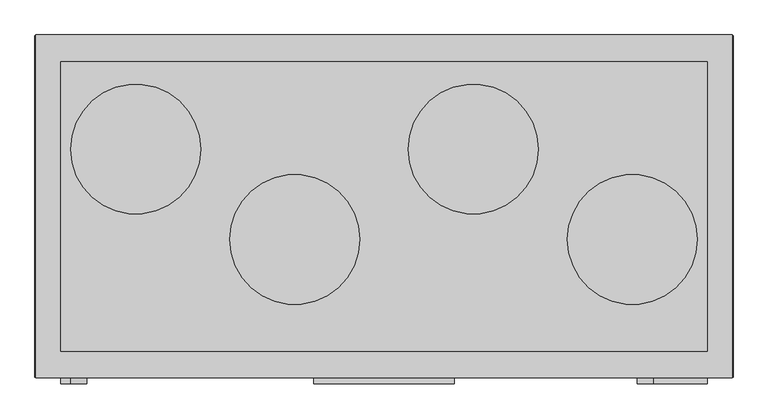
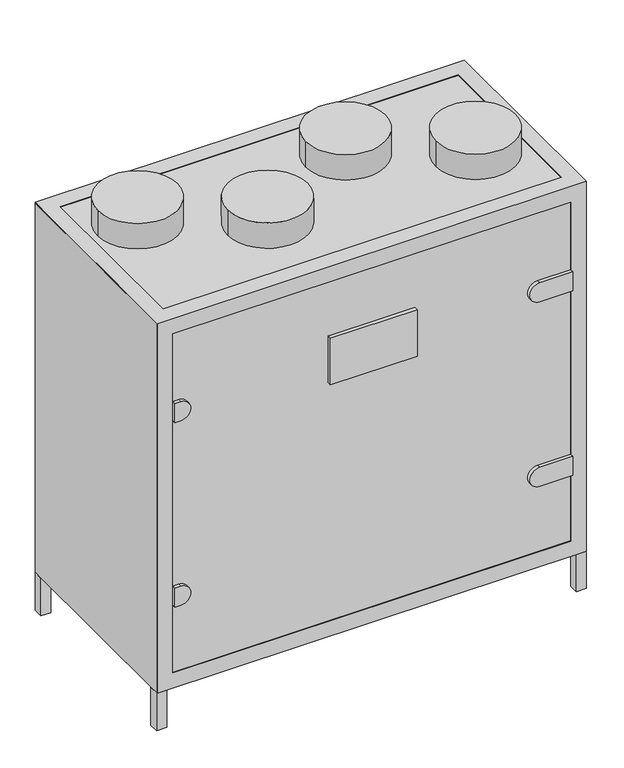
"""IFC4 building model written with IfcOpenShell, lengths in millimetres: proxy geometry, AVS 400...1600-V-RC(RG) : AVS 400-V-RG."""

from ifc_helpers import new_model, si_unit, point, frame, frame_2d, origin, origin_with_axes, place, context, project, spatial, polyline, circle_curve, trimmed, segment, composite_curve, outline, extrude, faceted_brep, source, transform, mapped, element, save


def mechanical_equipment_587655b3(model_context):
    return source(origin(), model_context, "Body", "SolidModel", [
        extrude(outline(polyline([(512.5, 263.0), (537.5, 263.0), (537.5, 238.0), (512.5, 238.0), (512.5, 263.0)])), origin_with_axes(), (0.0, 0.0, 1.0), 100.0),
        extrude(outline(polyline([(512.5, -263.0), (512.5, -238.0), (537.5, -238.0), (537.5, -263.0), (512.5, -263.0)])), origin_with_axes(), (0.0, 0.0, 1.0), 100.0),
        extrude(outline(polyline([(-537.5, 238.0), (-537.5, 263.0), (-512.5, 263.0), (-512.5, 238.0), (-537.5, 238.0)])), origin_with_axes(), (0.0, 0.0, 1.0), 100.0),
        extrude(outline(polyline([(-537.5, -238.0), (-512.5, -238.0), (-512.5, -263.0), (-537.5, -263.0), (-537.5, -238.0)])), origin_with_axes(), (0.0, 0.0, 1.0), 100.0),
        faceted_brep([(536.5, 264.0, 1077.0), (-536.5, 264.0, 1077.0), (-536.5, -264.0, 1077.0), (536.5, -264.0, 1077.0), (-497.5, 223.0, 1077.0), (20.0, 223.0, 1077.0), (497.5, 223.0, 1077.0), (497.5, -223.0, 1077.0), (20.0, -223.0, 1077.0), (-497.5, -223.0, 1077.0), (536.5, 264.0, 99.0), (536.5, -264.0, 99.0), (-536.5, -264.0, 99.0), (-536.5, 264.0, 99.0), (20.0, 223.0, 99.0), (-497.5, 223.0, 99.0), (-497.5, -223.0, 99.0), (20.0, -223.0, 99.0), (497.5, -223.0, 99.0), (497.5, 223.0, 99.0), (-497.5, 264.0, 1036.0), (-497.5, 264.0, 140.0), (497.5, 264.0, 140.0), (497.5, 264.0, 1036.0), (-536.5, -223.0, 1036.0), (-536.5, -223.0, 140.0), (-536.5, 223.0, 140.0), (-536.5, 223.0, 1036.0), (-497.5, -264.0, 140.0), (-497.5, -264.0, 1036.0), (497.5, -264.0, 1036.0), (497.5, -264.0, 140.0), (536.5, -223.0, 140.0), (536.5, -223.0, 1036.0), (536.5, 223.0, 1036.0), (536.5, 223.0, 140.0), (-497.5, 223.0, 1036.0), (20.0, 223.0, 1036.0), (20.0, 223.0, 140.0), (-497.5, 223.0, 140.0), (20.0, -223.0, 1036.0), (-497.5, -223.0, 1036.0), (-497.5, -223.0, 140.0), (20.0, -223.0, 140.0), (497.5, 223.0, 1036.0), (497.5, -223.0, 1036.0), (497.5, -223.0, 140.0), (497.5, 223.0, 140.0)], [[[0, 1, 2, 3], [4, 5, 6, 7, 8, 9]], [[10, 11, 12, 13], [14, 15, 16, 17, 18, 19]], [[1, 0, 10, 13], [20, 21, 22, 23]], [[2, 1, 13, 12], [24, 25, 26, 27]], [[3, 2, 12, 11], [28, 29, 30, 31]], [[0, 3, 11, 10], [32, 33, 34, 35]], [[5, 4, 36, 37]], [[15, 14, 38, 39]], [[9, 8, 40, 41]], [[17, 16, 42, 43]], [[7, 6, 44, 45]], [[19, 18, 46, 47]], [[31, 30, 45, 46]], [[44, 23, 22, 47]], [[41, 40, 45, 30, 29]], [[36, 20, 23, 44, 37]], [[43, 42, 28, 31, 46]], [[21, 39, 38, 47, 22]], [[24, 41, 42, 25]], [[45, 33, 32, 46]], [[46, 32, 35, 47]], [[39, 26, 25, 42]], [[47, 35, 34, 44]], [[36, 27, 26, 39]], [[33, 45, 44, 34]], [[27, 36, 41, 24]], [[4, 9, 41, 36]], [[16, 15, 39, 42]], [[29, 28, 42, 41]], [[20, 36, 39, 21]], [[6, 5, 37, 44]], [[14, 19, 47, 38]], [[8, 7, 45, 40]], [[18, 17, 43, 46]]]),
        extrude(outline(polyline([(-537.5, 263.0), (537.5, 263.0), (537.5, -263.0), (-537.5, -263.0), (-537.5, 263.0)])), frame((0.0, 0.0, 100.0), z_axis=(0.0, 0.0, 1.0), x_axis=(1.0, 0.0, 0.0)), (0.0, 0.0, 1.0), 976.0),
        extrude(outline(composite_curve([segment(trimmed(circle_curve(frame_2d((-382.5, 88.0)), 100.0), [point((-282.5, 88.0))], [point((-482.5, 88.0))], False, "CARTESIAN"), True, "CONTINUOUS"), segment(trimmed(circle_curve(frame_2d((-382.5, 88.0)), 100.0), [point((-482.5, 88.0))], [point((-282.5, 88.0))], False, "CARTESIAN"), True, "CONTINUOUS")], self_intersect=False)), frame((0.0, 0.0, 1077.0), z_axis=(0.0, 0.0, 1.0), x_axis=(1.0, 0.0, 0.0)), (0.0, 0.0, 1.0), 67.0),
        extrude(outline(composite_curve([segment(trimmed(circle_curve(frame_2d((-137.5, -51.0)), 100.0), [point((-37.5, -51.0))], [point((-237.5, -51.0))], False, "CARTESIAN"), True, "CONTINUOUS"), segment(trimmed(circle_curve(frame_2d((-137.5, -51.0)), 100.0), [point((-237.5, -51.0))], [point((-37.5, -51.0))], False, "CARTESIAN"), True, "CONTINUOUS")], self_intersect=False)), frame((0.0, 0.0, 1077.0), z_axis=(0.0, 0.0, 1.0), x_axis=(1.0, 0.0, 0.0)), (0.0, 0.0, 1.0), 67.0),
        extrude(outline(composite_curve([segment(trimmed(circle_curve(frame_2d((137.5, 88.0)), 100.0), [point((237.5, 88.0))], [point((37.5, 88.0))], False, "CARTESIAN"), True, "CONTINUOUS"), segment(trimmed(circle_curve(frame_2d((137.5, 88.0)), 100.0), [point((37.5, 88.0))], [point((237.5, 88.0))], False, "CARTESIAN"), True, "CONTINUOUS")], self_intersect=False)), frame((0.0, 0.0, 1077.0), z_axis=(0.0, 0.0, 1.0), x_axis=(1.0, 0.0, 0.0)), (0.0, 0.0, 1.0), 67.0),
        extrude(outline(composite_curve([segment(trimmed(circle_curve(frame_2d((382.5, -51.0)), 100.0), [point((482.5, -51.0))], [point((282.5, -51.0))], False, "CARTESIAN"), True, "CONTINUOUS"), segment(trimmed(circle_curve(frame_2d((382.5, -51.0)), 100.0), [point((282.5, -51.0))], [point((482.5, -51.0))], False, "CARTESIAN"), True, "CONTINUOUS")], self_intersect=False)), frame((0.0, 0.0, 1077.0), z_axis=(0.0, 0.0, 1.0), x_axis=(1.0, 0.0, 0.0)), (0.0, 0.0, 1.0), 67.0),
        extrude(outline(composite_curve([segment(polyline([(857.0, -482.7895396), (857.0, -497.5), (807.0, -497.5), (807.0, -482.7895396)]), True, "CONTINUOUS"), segment(trimmed(circle_curve(frame_2d((832.0, -482.7895396)), 25.0), [point((807.0, -482.7895396))], [point((857.0, -482.7895396))], False, "CARTESIAN"), True, "CONTINUOUS")], self_intersect=False)), frame((0.0, -273.0, 0.0), z_axis=(0.0, 1.0, 0.0), x_axis=(0.0, 0.0, 1.0)), (0.0, 0.0, 1.0), 10.0),
        extrude(outline(composite_curve([segment(polyline([(369.0, -482.7895396), (369.0, -497.5), (319.0, -497.5), (319.0, -482.7895396)]), True, "CONTINUOUS"), segment(trimmed(circle_curve(frame_2d((344.0, -482.7895396)), 25.0), [point((319.0, -482.7895396))], [point((369.0, -482.7895396))], False, "CARTESIAN"), True, "CONTINUOUS")], self_intersect=False)), frame((0.0, -273.0, 0.0), z_axis=(0.0, 1.0, 0.0), x_axis=(0.0, 0.0, 1.0)), (0.0, 0.0, 1.0), 10.0),
        extrude(outline(polyline([(108.5, -273.0), (-108.5, -273.0), (-108.5, -263.0), (108.5, -263.0), (108.5, -273.0)])), frame((0.0, 0.0, 770.25), z_axis=(0.0, 0.0, 1.0), x_axis=(1.0, 0.0, 0.0)), (0.0, 0.0, 1.0), 123.5),
        extrude(outline(composite_curve([segment(trimmed(circle_curve(frame_2d((832.0, 414.7895396)), 25.0), [point((857.0, 414.7895396))], [point((807.0, 414.7895396))], False, "CARTESIAN"), True, "CONTINUOUS"), segment(polyline([(807.0, 414.7895396), (807.0, 497.5), (857.0, 497.5), (857.0, 414.7895396)]), True, "CONTINUOUS")], self_intersect=False)), frame((0.0, -273.0, 0.0), z_axis=(0.0, 1.0, 0.0), x_axis=(0.0, 0.0, 1.0)), (0.0, 0.0, 1.0), 10.0),
        extrude(outline(composite_curve([segment(trimmed(circle_curve(frame_2d((344.0, 414.7895396)), 25.0), [point((369.0, 414.7895396))], [point((319.0, 414.7895396))], False, "CARTESIAN"), True, "CONTINUOUS"), segment(polyline([(319.0, 414.7895396), (319.0, 497.5), (369.0, 497.5), (369.0, 414.7895396)]), True, "CONTINUOUS")], self_intersect=False)), frame((0.0, -273.0, 0.0), z_axis=(0.0, 1.0, 0.0), x_axis=(0.0, 0.0, 1.0)), (0.0, 0.0, 1.0), 10.0),
    ])


if __name__ == "__main__":
    model = new_model("IFC4")
    model_context = context("Model", 3, world=origin())
    ifc_project = project(units=[si_unit("LENGTHUNIT", "METRE", prefix="MILLI")], contexts=[model_context])
    site = spatial("IfcSite", under=ifc_project)
    building = spatial("IfcBuilding", under=site)
    placement = place(None, origin())
    mechanical_equipment_shape = mechanical_equipment_587655b3(model_context)
    element("IfcBuildingElementProxy", 1, Name="AVS 400...1600-V-RC(RG) : AVS 400-V-RG", ObjectType="AVS 400...1600-V-RC(RG) : AVS 400-V-RG", at=placement, inside=building, context=model_context, shape_type="MappedRepresentation", body=[
        mapped(mechanical_equipment_shape, transform((0.0, 0.0, 0.0), x_axis=(1.0, 0.0, 0.0), y_axis=(0.0, 1.0, 0.0), z_axis=(0.0, 0.0, 1.0))),
    ])
    save(model, "model.ifc")
